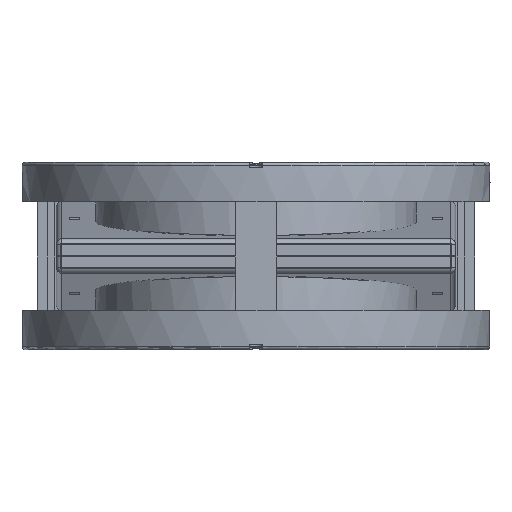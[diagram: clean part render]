
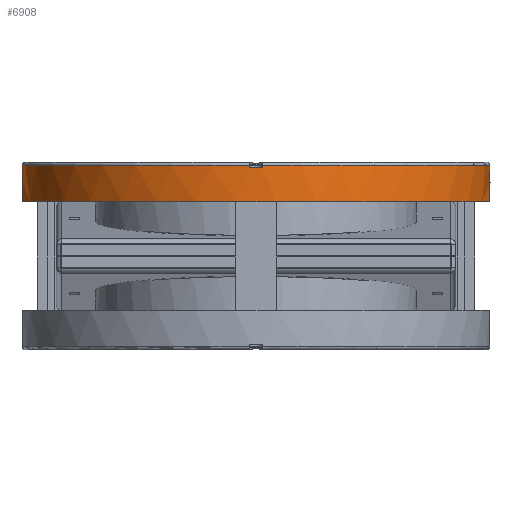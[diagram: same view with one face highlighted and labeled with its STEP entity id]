
A CAD part, front view. The second image highlights one B-rep face of the part: STEP entity #6908.
In plain terms, the highlighted cylindrical face has radius 112.4 mm (diameter 224.8 mm), a full revolution.
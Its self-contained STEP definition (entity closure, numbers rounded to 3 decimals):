
#6908=ADVANCED_FACE('',(#8111,#8112,#8113,#8114),#7716,.T.);
#7716=CYLINDRICAL_SURFACE('',#32343,112.4);
#8111=FACE_BOUND('',#9940,.T.);
#8112=FACE_BOUND('',#9941,.T.);
#8113=FACE_BOUND('',#9942,.T.);
#8114=FACE_BOUND('',#9943,.T.);
#9940=EDGE_LOOP('',(#18329,#18330,#18331));
#9941=EDGE_LOOP('',(#18332,#18333,#18334));
#9942=EDGE_LOOP('',(#18335,#18336,#18337,#18338,#18339,#18340,#18341,#18342));
#9943=EDGE_LOOP('',(#18343,#18344));
#11680=CIRCLE('',#32315,112.4);
#11694=CIRCLE('',#32333,112.4);
#11695=CIRCLE('',#32335,112.4);
#11696=CIRCLE('',#32338,112.4);
#11697=CIRCLE('',#32339,112.4);
#11698=CIRCLE('',#32340,112.4);
#11699=CIRCLE('',#32341,112.4);
#11977=ELLIPSE('',#32332,224.8,112.4);
#11978=ELLIPSE('',#32334,224.8,112.4);
#11979=ELLIPSE('',#32336,224.8,112.4);
#11980=ELLIPSE('',#32337,224.8,112.4);
#11981=ELLIPSE('',#32342,112.829,112.4);
#18329=ORIENTED_EDGE('',*,*,#25724,.T.);
#18330=ORIENTED_EDGE('',*,*,#25725,.T.);
#18331=ORIENTED_EDGE('',*,*,#25726,.T.);
#18332=ORIENTED_EDGE('',*,*,#25727,.T.);
#18333=ORIENTED_EDGE('',*,*,#25728,.T.);
#18334=ORIENTED_EDGE('',*,*,#25729,.T.);
#18335=ORIENTED_EDGE('',*,*,#25705,.F.);
#18336=ORIENTED_EDGE('',*,*,#25730,.T.);
#18337=ORIENTED_EDGE('',*,*,#25731,.F.);
#18338=ORIENTED_EDGE('',*,*,#25732,.T.);
#18339=ORIENTED_EDGE('',*,*,#25733,.F.);
#18340=ORIENTED_EDGE('',*,*,#25734,.F.);
#18341=ORIENTED_EDGE('',*,*,#25735,.T.);
#18342=ORIENTED_EDGE('',*,*,#25736,.F.);
#18343=ORIENTED_EDGE('',*,*,#25737,.T.);
#18344=ORIENTED_EDGE('',*,*,#25738,.F.);
#21956=VERTEX_POINT('',#54024);
#21957=VERTEX_POINT('',#54026);
#21972=VERTEX_POINT('',#54084);
#21973=VERTEX_POINT('',#54085);
#21974=VERTEX_POINT('',#54087);
#21975=VERTEX_POINT('',#54090);
#21976=VERTEX_POINT('',#54091);
#21977=VERTEX_POINT('',#54093);
#21978=VERTEX_POINT('',#54096);
#21979=VERTEX_POINT('',#54098);
#21980=VERTEX_POINT('',#54100);
#21981=VERTEX_POINT('',#54102);
#21982=VERTEX_POINT('',#54104);
#21983=VERTEX_POINT('',#54106);
#21984=VERTEX_POINT('',#54109);
#21985=VERTEX_POINT('',#54110);
#25705=EDGE_CURVE('',#21956,#21957,#11680,.T.);
#25724=EDGE_CURVE('',#21972,#21973,#11977,.T.);
#25725=EDGE_CURVE('',#21973,#21974,#11694,.T.);
#25726=EDGE_CURVE('',#21974,#21972,#11978,.T.);
#25727=EDGE_CURVE('',#21975,#21976,#11695,.T.);
#25728=EDGE_CURVE('',#21976,#21977,#11979,.T.);
#25729=EDGE_CURVE('',#21977,#21975,#11980,.T.);
#25730=EDGE_CURVE('',#21956,#21978,#27938,.T.);
#25731=EDGE_CURVE('',#21979,#21978,#11696,.T.);
#25732=EDGE_CURVE('',#21979,#21980,#27939,.T.);
#25733=EDGE_CURVE('',#21981,#21980,#11697,.T.);
#25734=EDGE_CURVE('',#21982,#21981,#27940,.T.);
#25735=EDGE_CURVE('',#21982,#21983,#11698,.T.);
#25736=EDGE_CURVE('',#21957,#21983,#27941,.T.);
#25737=EDGE_CURVE('',#21984,#21985,#11699,.T.);
#25738=EDGE_CURVE('',#21984,#21985,#11981,.T.);
#27938=LINE('',#54095,#29675);
#27939=LINE('',#54099,#29676);
#27940=LINE('',#54103,#29677);
#27941=LINE('',#54107,#29678);
#29675=VECTOR('',#38918,1.);
#29676=VECTOR('',#38921,1.);
#29677=VECTOR('',#38924,1.);
#29678=VECTOR('',#38927,1.);
#32315=AXIS2_PLACEMENT_3D('',#54025,#38870,#38871);
#32332=AXIS2_PLACEMENT_3D('',#54083,#38906,#38907);
#32333=AXIS2_PLACEMENT_3D('',#54086,#38908,#38909);
#32334=AXIS2_PLACEMENT_3D('',#54088,#38910,#38911);
#32335=AXIS2_PLACEMENT_3D('',#54089,#38912,#38913);
#32336=AXIS2_PLACEMENT_3D('',#54092,#38914,#38915);
#32337=AXIS2_PLACEMENT_3D('',#54094,#38916,#38917);
#32338=AXIS2_PLACEMENT_3D('',#54097,#38919,#38920);
#32339=AXIS2_PLACEMENT_3D('',#54101,#38922,#38923);
#32340=AXIS2_PLACEMENT_3D('',#54105,#38925,#38926);
#32341=AXIS2_PLACEMENT_3D('',#54108,#38928,#38929);
#32342=AXIS2_PLACEMENT_3D('',#54111,#38930,#38931);
#32343=AXIS2_PLACEMENT_3D('',#54112,#38932,#38933);
#38870=DIRECTION('',(-1.,0.,0.));
#38871=DIRECTION('',(0.,0.,1.));
#38906=DIRECTION('',(0.5,0.866,0.));
#38907=DIRECTION('',(-0.866,0.5,0.));
#38908=DIRECTION('',(-1.,0.,0.));
#38909=DIRECTION('',(0.,0.,1.));
#38910=DIRECTION('',(0.5,-0.866,0.));
#38911=DIRECTION('',(-0.866,-0.5,0.));
#38912=DIRECTION('',(-1.,0.,0.));
#38913=DIRECTION('',(0.,0.,1.));
#38914=DIRECTION('',(0.5,0.866,0.));
#38915=DIRECTION('',(-0.866,0.5,0.));
#38916=DIRECTION('',(0.5,-0.866,0.));
#38917=DIRECTION('',(-0.866,-0.5,0.));
#38918=DIRECTION('',(1.,0.,0.));
#38919=DIRECTION('',(-1.,0.,0.));
#38920=DIRECTION('',(0.,0.,1.));
#38921=DIRECTION('',(-1.,0.,0.));
#38922=DIRECTION('',(-1.,0.,0.));
#38923=DIRECTION('',(0.,0.,1.));
#38924=DIRECTION('',(-1.,0.,0.));
#38925=DIRECTION('',(1.,0.,0.));
#38926=DIRECTION('',(0.,0.,-1.));
#38927=DIRECTION('',(1.,0.,0.));
#38928=DIRECTION('',(-1.,0.,0.));
#38929=DIRECTION('',(0.,0.,1.));
#38930=DIRECTION('',(0.996,0.087,0.));
#38931=DIRECTION('',(-0.087,0.996,0.));
#38932=DIRECTION('',(-1.,0.,0.));
#38933=DIRECTION('',(0.,0.,1.));
#54024=CARTESIAN_POINT('',(-43.5,-112.36,3.));
#54025=CARTESIAN_POINT('',(-43.5,0.,0.));
#54026=CARTESIAN_POINT('',(-43.5,112.36,3.));
#54083=CARTESIAN_POINT('',(-35.5,0.,0.));
#54084=CARTESIAN_POINT('',(-35.5,0.,-112.4));
#54085=CARTESIAN_POINT('',(-40.,2.598,-112.37));
#54086=CARTESIAN_POINT('',(-40.,0.,0.));
#54087=CARTESIAN_POINT('',(-40.,-2.598,-112.37));
#54088=CARTESIAN_POINT('',(-35.5,0.,0.));
#54089=CARTESIAN_POINT('',(-40.,0.,0.));
#54090=CARTESIAN_POINT('',(-40.,-2.598,112.37));
#54091=CARTESIAN_POINT('',(-40.,2.598,112.37));
#54092=CARTESIAN_POINT('',(-35.5,0.,0.));
#54093=CARTESIAN_POINT('',(-35.5,0.,112.4));
#54094=CARTESIAN_POINT('',(-35.5,0.,0.));
#54095=CARTESIAN_POINT('',(-45.,-112.36,3.));
#54096=CARTESIAN_POINT('',(-42.5,-112.36,3.));
#54097=CARTESIAN_POINT('',(-42.5,0.,0.));
#54098=CARTESIAN_POINT('',(-42.5,-112.36,-3.));
#54099=CARTESIAN_POINT('',(-45.,-112.36,-3.));
#54100=CARTESIAN_POINT('',(-43.5,-112.36,-3.));
#54101=CARTESIAN_POINT('',(-43.5,0.,0.));
#54102=CARTESIAN_POINT('',(-43.5,112.36,-3.));
#54103=CARTESIAN_POINT('',(-45.,112.36,-3.));
#54104=CARTESIAN_POINT('',(-42.5,112.36,-3.));
#54105=CARTESIAN_POINT('',(-42.5,0.,0.));
#54106=CARTESIAN_POINT('',(-42.5,112.36,3.));
#54107=CARTESIAN_POINT('',(-45.,112.36,3.));
#54108=CARTESIAN_POINT('',(-26.,0.,0.));
#54109=CARTESIAN_POINT('',(-26.,108.597,-28.991));
#54110=CARTESIAN_POINT('',(-26.,108.597,28.991));
#54111=CARTESIAN_POINT('',(-16.499,0.,0.));
#54112=CARTESIAN_POINT('',(-45.,0.,0.));
